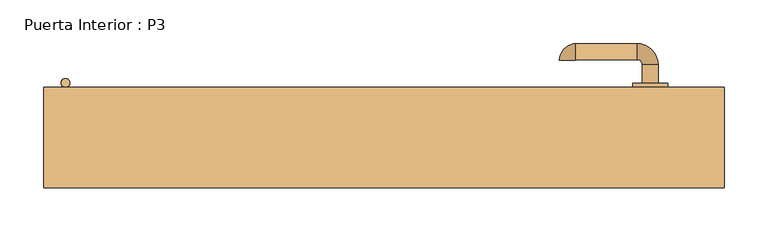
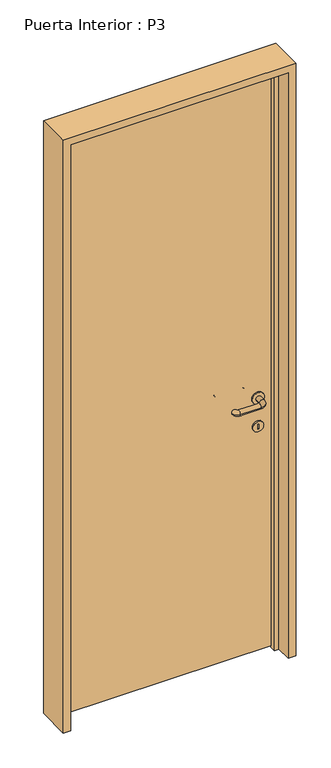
"""IFC4 building model written with IfcOpenShell, lengths in millimetres: door geometry, Puerta Interior : P3."""

from ifc_helpers import new_model, si_unit, point, frame, frame_2d, origin, place, context, project, spatial, polyline, circle_curve, ellipse_curve, trimmed, segment, composite_curve, outline, extrude, faceted_brep, source, transform, mapped, element, save
from ifc_brep_helpers import plane_surface, cylinder_surface, revolved_surface, advanced_brep


def puerta_interior_p3_27b4b05c(model_context):
    return source(origin(), model_context, "Body", "SolidModel", [
        extrude(outline(composite_curve([segment(trimmed(circle_curve(frame_2d((900.0, 305.0)), 20.0), [point((900.0, 325.0))], [point((900.0, 285.0))], False, "CARTESIAN"), True, "CONTINUOUS"), segment(trimmed(circle_curve(frame_2d((900.0, 305.0)), 20.0), [point((900.0, 285.0))], [point((900.0, 325.0))], False, "CARTESIAN"), True, "CONTINUOUS")], self_intersect=False)), frame((0.0, 12.5, 0.0), z_axis=(0.0, 1.0, 0.0), x_axis=(0.0, 0.0, 1.0)), (0.0, 0.0, 1.0), 5.0),
        advanced_brep(
        [(296.0, 12.5, 900.0), (314.0, 12.5, 900.0), (296.0, -8.5, 900.0), (314.0, -8.5, 900.0), (290.0, -32.5, 900.0), (290.0, -14.5, 900.0), (219.797959, -14.5, 900.0), (219.797959, -32.5, 900.0), (218.797959, -13.5, 900.0), (200.797959, -13.5, 900.0)],
        [
            (0, 1, circle_curve(frame((305.0, 12.5, 900.0), z_axis=(0.0, 1.0, 0.0), x_axis=(1.0, 0.0, 0.0)), 9.0)),
            (1, 0, circle_curve(frame((305.0, 12.5, 900.0), z_axis=(0.0, 1.0, 0.0), x_axis=(1.0, 0.0, 0.0)), 9.0)),
            (0, 2),
            (2, 3, circle_curve(frame((305.0, -8.5, 900.0), z_axis=(0.0, 1.0, 0.0), x_axis=(1.0, 0.0, 0.0)), 9.0)),
            (3, 1),
            (3, 2, circle_curve(frame((305.0, -8.5, 900.0), z_axis=(0.0, 1.0, 0.0), x_axis=(1.0, 0.0, 0.0)), 9.0)),
            (4, 3, circle_curve(frame((290.0, -8.5, 900.0), z_axis=(0.0, 0.0, 1.0), x_axis=(1.0, 0.0, 0.0)), 24.0)),
            (2, 5, circle_curve(frame((290.0, -8.5, 900.0), z_axis=(0.0, 0.0, -1.0), x_axis=(1.0, 0.0, 0.0)), 6.0)),
            (5, 4, circle_curve(frame((290.0, -23.5, 900.0), z_axis=(1.0, 0.0, 0.0), x_axis=(0.0, -1.0, 0.0)), 9.0)),
            (4, 5, circle_curve(frame((290.0, -23.5, 900.0), z_axis=(1.0, 0.0, 0.0), x_axis=(0.0, -1.0, 0.0)), 9.0)),
            (5, 6),
            (6, 7, circle_curve(frame((219.797959, -23.5, 900.0), z_axis=(1.0, 0.0, 0.0), x_axis=(0.0, -1.0, 0.0)), 9.0)),
            (7, 4),
            (7, 6, circle_curve(frame((219.797959, -23.5, 900.0), z_axis=(1.0, 0.0, 0.0), x_axis=(0.0, -1.0, 0.0)), 9.0)),
            (8, 9, circle_curve(frame((209.797959, -13.5, 900.0), z_axis=(0.0, 1.0, 0.0), x_axis=(-1.0, 0.0, 0.0)), 9.0)),
            (9, 8, circle_curve(frame((209.797959, -13.5, 900.0), z_axis=(0.0, 1.0, 0.0), x_axis=(-1.0, 0.0, 0.0)), 9.0)),
            (9, 7, circle_curve(frame((219.797959, -13.5, 900.0), z_axis=(0.0, 0.0, 1.0), x_axis=(0.0, -1.0, 0.0)), 19.0)),
            (6, 8, circle_curve(frame((219.797959, -13.5, 900.0), z_axis=(0.0, 0.0, -1.0), x_axis=(0.0, -1.0, 0.0)), 1.0)),
        ],
        [
            plane_surface(frame((305.0, 12.5, 900.0), z_axis=(0.0, 1.0, 0.0), x_axis=(0.0, 0.0, 1.0))),
            cylinder_surface(frame((305.0, 12.5, 900.0), z_axis=(0.0, 1.0, 0.0), x_axis=(1.0, 0.0, 0.0)), 9.0),
            revolved_surface(trimmed(ellipse_curve(frame((305.0, -8.5, 900.0), z_axis=(0.0, 1.0, 0.0), x_axis=(1.0, 0.0, 0.0)), 9.0, 9.0), [point((296.0, -8.5, 900.0))], [point((314.0, -8.5, 900.0))], True, "CARTESIAN"), (290.0, -8.5, 900.0), (0.0, 0.0, -1.0)),
            revolved_surface(trimmed(ellipse_curve(frame((305.0, -8.5, 900.0), z_axis=(0.0, 1.0, 0.0), x_axis=(1.0, 0.0, 0.0)), 9.0, 9.0), [point((314.0, -8.5, 900.0))], [point((296.0, -8.5, 900.0))], True, "CARTESIAN"), (290.0, -8.5, 900.0), (0.0, 0.0, -1.0)),
            cylinder_surface(frame((290.0, -23.5, 900.0), z_axis=(1.0, 0.0, 0.0), x_axis=(0.0, -1.0, 0.0)), 9.0),
            plane_surface(frame((209.797959, -13.5, 900.0), z_axis=(0.0, 1.0, 0.0), x_axis=(0.0, 0.0, 1.0))),
            revolved_surface(trimmed(ellipse_curve(frame((219.797959, -23.5, 900.0), z_axis=(1.0, 0.0, 0.0), x_axis=(0.0, -1.0, 0.0)), 9.0, 9.0), [point((219.797959, -14.5, 900.0))], [point((219.797959, -32.5, 900.0))], True, "CARTESIAN"), (219.797959, -13.5, 900.0), (0.0, 0.0, -1.0)),
            revolved_surface(trimmed(ellipse_curve(frame((219.797959, -23.5, 900.0), z_axis=(1.0, 0.0, 0.0), x_axis=(0.0, -1.0, 0.0)), 9.0, 9.0), [point((219.797959, -32.5, 900.0))], [point((219.797959, -14.5, 900.0))], True, "CARTESIAN"), (219.797959, -13.5, 900.0), (0.0, 0.0, -1.0)),
        ],
        [
            (0, [[1, 2]]),
            (1, [[-1, 3, 4, 5]]),
            (1, [[-2, -5, 6, -3]]),
            (2, [[7, -4, 8, 9]]),
            (3, [[-8, -6, -7, 10]]),
            (4, [[-9, 11, 12, 13]]),
            (4, [[-10, -13, 14, -11]]),
            (5, [[15, 16]]),
            (6, [[17, -12, 18, -16]]),
            (7, [[-18, -14, -17, -15]]),
        ],
    ),
        extrude(outline(composite_curve([segment(trimmed(circle_curve(frame_2d((900.0, 305.0)), 20.0), [point((900.0, 325.0))], [point((900.0, 285.0))], False, "CARTESIAN"), True, "CONTINUOUS"), segment(trimmed(circle_curve(frame_2d((900.0, 305.0)), 20.0), [point((900.0, 285.0))], [point((900.0, 325.0))], False, "CARTESIAN"), True, "CONTINUOUS")], self_intersect=False)), frame((0.0, 57.5, 0.0), z_axis=(0.0, 1.0, 0.0), x_axis=(0.0, 0.0, 1.0)), (0.0, 0.0, 1.0), 5.0),
        advanced_brep(
        [(296.0, 62.5, 900.0), (314.0, 62.5, 900.0), (314.0, 83.5, 900.0), (296.0, 83.5, 900.0), (290.0, 107.5, 900.0), (290.0, 89.5, 900.0), (219.797959, 107.5, 900.0), (219.797959, 89.5, 900.0), (218.797959, 88.5, 900.0), (200.797959, 88.5, 900.0)],
        [
            (0, 1, circle_curve(frame((305.0, 62.5, 900.0), z_axis=(0.0, -1.0, 0.0), x_axis=(1.0, 0.0, 0.0)), 9.0)),
            (1, 0, circle_curve(frame((305.0, 62.5, 900.0), z_axis=(0.0, -1.0, 0.0), x_axis=(1.0, 0.0, 0.0)), 9.0)),
            (1, 2),
            (2, 3, circle_curve(frame((305.0, 83.5, 900.0), z_axis=(0.0, -1.0, 0.0), x_axis=(1.0, 0.0, 0.0)), 9.0)),
            (3, 0),
            (3, 2, circle_curve(frame((305.0, 83.5, 900.0), z_axis=(0.0, -1.0, 0.0), x_axis=(1.0, 0.0, 0.0)), 9.0)),
            (4, 5, circle_curve(frame((290.0, 98.5, 900.0), z_axis=(1.0, 0.0, 0.0), x_axis=(0.0, 1.0, 0.0)), 9.0)),
            (5, 3, circle_curve(frame((290.0, 83.5, 900.0), z_axis=(0.0, 0.0, -1.0), x_axis=(1.0, 0.0, 0.0)), 6.0)),
            (2, 4, circle_curve(frame((290.0, 83.5, 900.0), z_axis=(0.0, 0.0, 1.0), x_axis=(1.0, 0.0, 0.0)), 24.0)),
            (5, 4, circle_curve(frame((290.0, 98.5, 900.0), z_axis=(1.0, 0.0, 0.0), x_axis=(0.0, 1.0, 0.0)), 9.0)),
            (4, 6),
            (6, 7, circle_curve(frame((219.797959, 98.5, 900.0), z_axis=(1.0, 0.0, 0.0), x_axis=(0.0, 1.0, 0.0)), 9.0)),
            (7, 5),
            (7, 6, circle_curve(frame((219.797959, 98.5, 900.0), z_axis=(1.0, 0.0, 0.0), x_axis=(0.0, 1.0, 0.0)), 9.0)),
            (8, 9, circle_curve(frame((209.797959, 88.5, 900.0), z_axis=(0.0, -1.0, 0.0), x_axis=(-1.0, 0.0, 0.0)), 9.0)),
            (9, 8, circle_curve(frame((209.797959, 88.5, 900.0), z_axis=(0.0, -1.0, 0.0), x_axis=(-1.0, 0.0, 0.0)), 9.0)),
            (8, 7, circle_curve(frame((219.797959, 88.5, 900.0), z_axis=(0.0, 0.0, -1.0), x_axis=(0.0, 1.0, 0.0)), 1.0)),
            (6, 9, circle_curve(frame((219.797959, 88.5, 900.0), z_axis=(0.0, 0.0, 1.0), x_axis=(0.0, 1.0, 0.0)), 19.0)),
        ],
        [
            plane_surface(frame((305.0, 62.5, 900.0), z_axis=(0.0, -1.0, 0.0), x_axis=(0.0, 0.0, 1.0))),
            cylinder_surface(frame((305.0, 62.5, 900.0), z_axis=(0.0, -1.0, 0.0), x_axis=(1.0, 0.0, 0.0)), 9.0),
            revolved_surface(trimmed(ellipse_curve(frame((305.0, 83.5, 900.0), z_axis=(0.0, 1.0, 0.0), x_axis=(1.0, 0.0, 0.0)), 9.0, 9.0), [point((296.0, 83.5, 900.0))], [point((314.0, 83.5, 900.0))], True, "CARTESIAN"), (290.0, 83.5, 900.0), (0.0, 0.0, -1.0)),
            revolved_surface(trimmed(ellipse_curve(frame((305.0, 83.5, 900.0), z_axis=(0.0, 1.0, 0.0), x_axis=(1.0, 0.0, 0.0)), 9.0, 9.0), [point((314.0, 83.5, 900.0))], [point((296.0, 83.5, 900.0))], True, "CARTESIAN"), (290.0, 83.5, 900.0), (0.0, 0.0, -1.0)),
            cylinder_surface(frame((290.0, 98.5, 900.0), z_axis=(1.0, 0.0, 0.0), x_axis=(0.0, 1.0, 0.0)), 9.0),
            plane_surface(frame((209.797959, 88.5, 900.0), z_axis=(0.0, -1.0, 0.0), x_axis=(0.0, 0.0, 1.0))),
            revolved_surface(trimmed(ellipse_curve(frame((219.797959, 98.5, 900.0), z_axis=(-1.0, 0.0, 0.0), x_axis=(0.0, 1.0, 0.0)), 9.0, 9.0), [point((219.797959, 89.5, 900.0))], [point((219.797959, 107.5, 900.0))], True, "CARTESIAN"), (219.797959, 88.5, 900.0), (0.0, 0.0, -1.0)),
            revolved_surface(trimmed(ellipse_curve(frame((219.797959, 98.5, 900.0), z_axis=(-1.0, 0.0, 0.0), x_axis=(0.0, 1.0, 0.0)), 9.0, 9.0), [point((219.797959, 107.5, 900.0))], [point((219.797959, 89.5, 900.0))], True, "CARTESIAN"), (219.797959, 88.5, 900.0), (0.0, 0.0, -1.0)),
        ],
        [
            (0, [[1, 2]]),
            (1, [[3, 4, 5, -2]]),
            (1, [[-5, 6, -3, -1]]),
            (2, [[7, 8, -4, 9]]),
            (3, [[10, -9, -6, -8]]),
            (4, [[11, 12, 13, -7]]),
            (4, [[-13, 14, -11, -10]]),
            (5, [[15, 16]]),
            (6, [[-15, 17, -12, 18]]),
            (7, [[-16, -18, -14, -17]]),
        ],
    ),
        extrude(outline(composite_curve([segment(trimmed(circle_curve(frame_2d((800.0, 305.0)), 18.0), [point((800.0, 323.0))], [point((800.0, 287.0))], False, "CARTESIAN"), True, "CONTINUOUS"), segment(trimmed(circle_curve(frame_2d((800.0, 305.0)), 18.0), [point((800.0, 287.0))], [point((800.0, 323.0))], False, "CARTESIAN"), True, "CONTINUOUS")], self_intersect=False), holes=[polyline([(791.5189471, 305.9764977), (791.5189471, 304.0063037), (807.7059713, 304.0063037), (807.7059713, 305.9764977), (791.5189471, 305.9764977)])]), frame((0.0, 12.5, 0.0), z_axis=(0.0, 1.0, 0.0), x_axis=(0.0, 0.0, 1.0)), (0.0, 0.0, 1.0), 50.0),
        extrude(outline(polyline([(-365.0, 57.5), (365.0, 57.5), (365.0, 17.5), (-365.0, 17.5), (-365.0, 57.5)])), frame((0.0, 0.0, 5.0), z_axis=(0.0, 0.0, 1.0), x_axis=(1.0, 0.0, 0.0)), (0.0, 0.0, 1.0), 2070.0),
        faceted_brep([(365.0, 17.5, 0.0), (365.0, 57.5, 0.0), (390.0, 57.5, 0.0), (390.0, -57.5, 0.0), (365.0, -57.5, 0.0), (365.0, -2.5, 0.0), (350.0, -2.5, 0.0), (350.0, 17.5, 0.0), (365.0, 17.5, 2075.0), (365.0, 57.5, 2075.0), (-365.0, 57.5, 2075.0), (-365.0, 57.5, 0.0), (-390.0, 57.5, 0.0), (-390.0, 57.5, 2100.0), (390.0, 57.5, 2100.0), (390.0, -57.5, 2100.0), (-390.0, -57.5, 2100.0), (-390.0, -57.5, 0.0), (-365.0, -57.5, 0.0), (-365.0, -57.5, 2075.0), (365.0, -57.5, 2075.0), (365.0, -2.5, 2075.0), (-365.0, -2.5, 2075.0), (-365.0, -2.5, 0.0), (-350.0, -2.5, 0.0), (-350.0, -2.5, 2060.0), (350.0, -2.5, 2060.0), (350.0, 17.5, 2060.0), (-350.0, 17.5, 2060.0), (-350.0, 17.5, 0.0), (-365.0, 17.5, 0.0), (-365.0, 17.5, 2075.0)], [[[0, 1, 2, 3, 4, 5, 6, 7]], [[1, 0, 8, 9]], [[2, 1, 9, 10, 11, 12, 13, 14]], [[3, 2, 14, 15]], [[4, 3, 15, 16, 17, 18, 19, 20]], [[5, 4, 20, 21]], [[6, 5, 21, 22, 23, 24, 25, 26]], [[7, 6, 26, 27]], [[0, 7, 27, 28, 29, 30, 31, 8]], [[10, 31, 30, 11]], [[30, 29, 24, 23, 18, 17, 12, 11]], [[16, 13, 12, 17]], [[22, 19, 18, 23]], [[28, 25, 24, 29]], [[9, 8, 31, 10]], [[15, 14, 13, 16]], [[21, 20, 19, 22]], [[27, 26, 25, 28]]]),
        extrude(outline(composite_curve([segment(trimmed(circle_curve(frame_2d((-365.0, 62.5)), 5.0), [point((-365.0, 57.5))], [point((-365.0, 67.5))], False, "CARTESIAN"), True, "CONTINUOUS"), segment(trimmed(circle_curve(frame_2d((-365.0, 62.5)), 5.0), [point((-365.0, 67.5))], [point((-365.0, 57.5))], False, "CARTESIAN"), True, "CONTINUOUS")], self_intersect=False)), frame((0.0, 0.0, 1850.0), z_axis=(0.0, 0.0, 1.0), x_axis=(1.0, 0.0, 0.0)), (0.0, 0.0, 1.0), 100.0),
        extrude(outline(composite_curve([segment(trimmed(circle_curve(frame_2d((-365.0, 62.5)), 5.0), [point((-370.0, 62.5))], [point((-360.0, 62.5))], False, "CARTESIAN"), True, "CONTINUOUS"), segment(trimmed(circle_curve(frame_2d((-365.0, 62.5)), 5.0), [point((-360.0, 62.5))], [point((-370.0, 62.5))], False, "CARTESIAN"), True, "CONTINUOUS")], self_intersect=False)), frame((0.0, 0.0, 980.0), z_axis=(0.0, 0.0, 1.0), x_axis=(1.0, 0.0, 0.0)), (0.0, 0.0, 1.0), 100.0),
        extrude(outline(composite_curve([segment(trimmed(circle_curve(frame_2d((-365.0, 62.5)), 5.0), [point((-365.0, 57.5))], [point((-365.0, 67.5))], False, "CARTESIAN"), True, "CONTINUOUS"), segment(trimmed(circle_curve(frame_2d((-365.0, 62.5)), 5.0), [point((-365.0, 67.5))], [point((-365.0, 57.5))], False, "CARTESIAN"), True, "CONTINUOUS")], self_intersect=False)), frame((0.0, 0.0, 110.0), z_axis=(0.0, 0.0, 1.0), x_axis=(1.0, 0.0, 0.0)), (0.0, 0.0, 1.0), 100.0),
    ])


if __name__ == "__main__":
    model = new_model("IFC4")
    model_context = context("Model", 3, world=origin())
    ifc_project = project(units=[si_unit("LENGTHUNIT", "METRE", prefix="MILLI")], contexts=[model_context])
    site = spatial("IfcSite", under=ifc_project)
    building = spatial("IfcBuilding", under=site)
    placement = place(None, origin())
    puerta_interior_p3_shape = puerta_interior_p3_27b4b05c(model_context)
    element("IfcDoor", 1, ObjectType="Puerta Interior : P3", at=placement, inside=building, context=model_context, shape_type="MappedRepresentation", body=[
        mapped(puerta_interior_p3_shape, transform((0.0, 0.0, 0.0), x_axis=(1.0, 0.0, 0.0), y_axis=(0.0, 1.0, 0.0), z_axis=(0.0, 0.0, 1.0))),
    ])
    save(model, "model.ifc")
